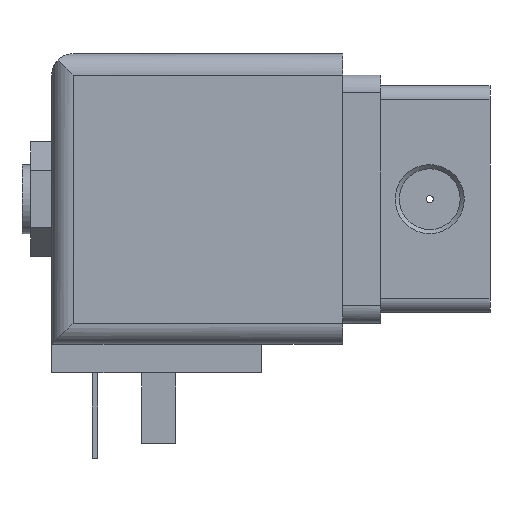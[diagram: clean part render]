
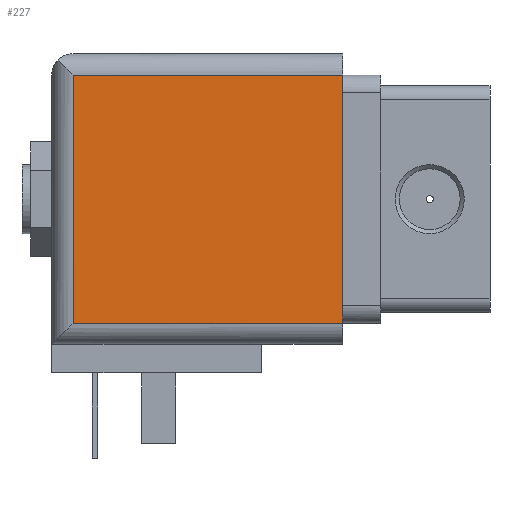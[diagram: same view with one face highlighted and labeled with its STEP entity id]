
A CAD part, left-side view. The second image highlights one B-rep face of the part: STEP entity #227.
In plain terms, the highlighted planar face has unit normal (-1, 0, 0).
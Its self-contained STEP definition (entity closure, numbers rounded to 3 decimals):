
#227 = ADVANCED_FACE( '', ( #493 ), #494, .F. );
#493 = FACE_OUTER_BOUND( '', #785, .T. );
#494 = PLANE( '', #786 );
#785 = EDGE_LOOP( '', ( #1361, #1362, #1363, #1364, #1365, #1366 ) );
#786 = AXIS2_PLACEMENT_3D( '', #1367, #1368, #1369 );
#1361 = ORIENTED_EDGE( '', *, *, #1800, .T. );
#1362 = ORIENTED_EDGE( '', *, *, #1693, .T. );
#1363 = ORIENTED_EDGE( '', *, *, #1702, .T. );
#1364 = ORIENTED_EDGE( '', *, *, #1801, .T. );
#1365 = ORIENTED_EDGE( '', *, *, #1587, .F. );
#1366 = ORIENTED_EDGE( '', *, *, #1708, .T. );
#1367 = CARTESIAN_POINT( '', ( 0., 41., 3. ) );
#1368 = DIRECTION( '', ( 1., 0., 0. ) );
#1369 = DIRECTION( '', ( 0., 0., -1. ) );
#1587 = EDGE_CURVE( '', #1861, #1863, #1864, .T. );
#1693 = EDGE_CURVE( '', #2038, #2036, #2039, .T. );
#1702 = EDGE_CURVE( '', #2036, #1920, #2052, .T. );
#1708 = EDGE_CURVE( '', #1861, #2059, #2061, .T. );
#1800 = EDGE_CURVE( '', #2059, #2038, #2189, .T. );
#1801 = EDGE_CURVE( '', #1920, #1863, #2190, .T. );
#1861 = VERTEX_POINT( '', #2258 );
#1863 = VERTEX_POINT( '', #2260 );
#1864 = LINE( '', #2261, #2262 );
#1920 = VERTEX_POINT( '', #2336 );
#2036 = VERTEX_POINT( '', #2489 );
#2038 = VERTEX_POINT( '', #2491 );
#2039 = LINE( '', #2492, #2493 );
#2052 = LINE( '', #2510, #2511 );
#2059 = VERTEX_POINT( '', #2519 );
#2061 = LINE( '', #2521, #2522 );
#2189 = LINE( '', #2695, #2696 );
#2190 = LINE( '', #2697, #2698 );
#2258 = CARTESIAN_POINT( '', ( 0., 38., 38. ) );
#2260 = CARTESIAN_POINT( '', ( 0., 0., 38. ) );
#2261 = CARTESIAN_POINT( '', ( 0., 41., 38. ) );
#2262 = VECTOR( '', #2767, 1000. );
#2336 = CARTESIAN_POINT( '', ( 0., 0., 36.687 ) );
#2489 = CARTESIAN_POINT( '', ( 0., 0., 4.313 ) );
#2491 = CARTESIAN_POINT( '', ( 0., 0., 3. ) );
#2492 = CARTESIAN_POINT( '', ( 0., 0., 3. ) );
#2493 = VECTOR( '', #2898, 1000. );
#2510 = CARTESIAN_POINT( '', ( 0., 0., 3. ) );
#2511 = VECTOR( '', #2909, 1000. );
#2519 = CARTESIAN_POINT( '', ( 0., 38., 3. ) );
#2521 = CARTESIAN_POINT( '', ( 0., 38., 47. ) );
#2522 = VECTOR( '', #2920, 1000. );
#2695 = CARTESIAN_POINT( '', ( 0., 41., 3. ) );
#2696 = VECTOR( '', #3017, 1000. );
#2697 = CARTESIAN_POINT( '', ( 0., 0., 3. ) );
#2698 = VECTOR( '', #3018, 1000. );
#2767 = DIRECTION( '', ( 0., -1., 0. ) );
#2898 = DIRECTION( '', ( 0., 0., 1. ) );
#2909 = DIRECTION( '', ( 0., 0., 1. ) );
#2920 = DIRECTION( '', ( 0., 0., -1. ) );
#3017 = DIRECTION( '', ( 0., -1., 0. ) );
#3018 = DIRECTION( '', ( 0., 0., 1. ) );
